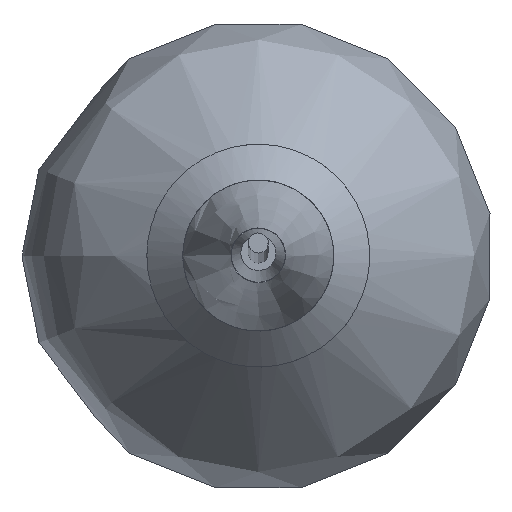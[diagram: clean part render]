
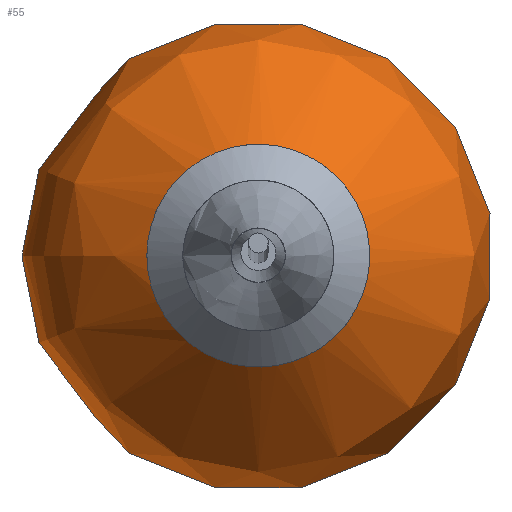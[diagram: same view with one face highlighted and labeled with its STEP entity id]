
A CAD part, top view. The second image highlights one B-rep face of the part: STEP entity #55.
In plain terms, the highlighted free-form (B-spline) face has degree [2, 2] with [9, 5] control points.
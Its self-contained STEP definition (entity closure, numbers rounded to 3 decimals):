
#55=ADVANCED_FACE('',(#69),#213,.T.);
#69=FACE_OUTER_BOUND('',#83,.T.);
#83=EDGE_LOOP('',(#97,#98,#99));
#97=ORIENTED_EDGE('',*,*,#141,.T.);
#98=ORIENTED_EDGE('',*,*,#142,.T.);
#99=ORIENTED_EDGE('',*,*,#142,.F.);
#141=EDGE_CURVE('',#190,#190,#170,.T.);
#142=EDGE_CURVE('',#190,#191,#171,.T.);
#170=(
BOUNDED_CURVE()
B_SPLINE_CURVE(2,(#381,#382,#383,#384,#385,#386,#387,#388,#389),
 .UNSPECIFIED.,.T.,.F.)
B_SPLINE_CURVE_WITH_KNOTS((3,2,2,2,3),(0.,54.977,109.954,
164.93,219.907),.UNSPECIFIED.)
CURVE()
GEOMETRIC_REPRESENTATION_ITEM()
RATIONAL_B_SPLINE_CURVE((1.,0.707,1.,0.707,1.,0.707,
1.,0.707,1.))
REPRESENTATION_ITEM('')
);
#171=(
BOUNDED_CURVE()
B_SPLINE_CURVE(2,(#390,#391,#392,#393,#394),.UNSPECIFIED.,.F.,.F.)
B_SPLINE_CURVE_WITH_KNOTS((3,2,3),(0.,46.387,92.774),
 .UNSPECIFIED.)
CURVE()
GEOMETRIC_REPRESENTATION_ITEM()
RATIONAL_B_SPLINE_CURVE((1.,0.788,1.,0.788,1.))
REPRESENTATION_ITEM('')
);
#190=VERTEX_POINT('',#379);
#191=VERTEX_POINT('',#380);
#213=(
BOUNDED_SURFACE()
B_SPLINE_SURFACE(2,2,((#334,#335,#336,#337,#338),(#339,#340,#341,#342,#343),
(#344,#345,#346,#347,#348),(#349,#350,#351,#352,#353),(#354,#355,#356,#357,
#358),(#359,#360,#361,#362,#363),(#364,#365,#366,#367,#368),(#369,#370,
#371,#372,#373),(#374,#375,#376,#377,#378)),.UNSPECIFIED.,.T.,.F.,.F.)
B_SPLINE_SURFACE_WITH_KNOTS((3,2,2,2,3),(3,2,3),(0.,54.977,109.954,
164.93,219.907),(0.,46.387,92.774),
 .UNSPECIFIED.)
GEOMETRIC_REPRESENTATION_ITEM()
RATIONAL_B_SPLINE_SURFACE(((1.,0.788,1.,0.788,1.),
(0.707,0.557,0.707,0.557,
0.707),(1.,0.788,1.,0.788,1.),(0.707,
0.557,0.707,0.557,0.707),
(1.,0.788,1.,0.788,1.),(0.707,0.557,
0.707,0.557,0.707),(1.,0.788,
1.,0.788,1.),(0.707,0.557,0.707,
0.557,0.707),(1.,0.788,1.,0.788,
1.)))
REPRESENTATION_ITEM('')
SURFACE()
);
#334=CARTESIAN_POINT('',(6376.497,1480.405,-2865.75));
#335=CARTESIAN_POINT('',(6352.409,1480.405,-2878.626));
#336=CARTESIAN_POINT('',(6359.046,1480.405,-2905.122));
#337=CARTESIAN_POINT('',(6365.683,1480.405,-2931.617));
#338=CARTESIAN_POINT('',(6392.997,1480.405,-2931.617));
#339=CARTESIAN_POINT('',(6376.497,1463.905,-2865.75));
#340=CARTESIAN_POINT('',(6352.409,1439.817,-2878.626));
#341=CARTESIAN_POINT('',(6359.046,1446.454,-2905.122));
#342=CARTESIAN_POINT('',(6365.683,1453.091,-2931.617));
#343=CARTESIAN_POINT('',(6392.997,1480.405,-2931.617));
#344=CARTESIAN_POINT('',(6392.997,1463.905,-2865.75));
#345=CARTESIAN_POINT('',(6392.997,1439.817,-2878.626));
#346=CARTESIAN_POINT('',(6392.997,1446.454,-2905.122));
#347=CARTESIAN_POINT('',(6392.997,1453.091,-2931.617));
#348=CARTESIAN_POINT('',(6392.997,1480.405,-2931.617));
#349=CARTESIAN_POINT('',(6409.497,1463.905,-2865.75));
#350=CARTESIAN_POINT('',(6433.585,1439.817,-2878.626));
#351=CARTESIAN_POINT('',(6426.948,1446.454,-2905.122));
#352=CARTESIAN_POINT('',(6420.311,1453.091,-2931.617));
#353=CARTESIAN_POINT('',(6392.997,1480.405,-2931.617));
#354=CARTESIAN_POINT('',(6409.497,1480.405,-2865.75));
#355=CARTESIAN_POINT('',(6433.585,1480.405,-2878.626));
#356=CARTESIAN_POINT('',(6426.948,1480.405,-2905.122));
#357=CARTESIAN_POINT('',(6420.311,1480.405,-2931.617));
#358=CARTESIAN_POINT('',(6392.997,1480.405,-2931.617));
#359=CARTESIAN_POINT('',(6409.497,1496.905,-2865.75));
#360=CARTESIAN_POINT('',(6433.585,1520.993,-2878.626));
#361=CARTESIAN_POINT('',(6426.948,1514.356,-2905.122));
#362=CARTESIAN_POINT('',(6420.311,1507.719,-2931.617));
#363=CARTESIAN_POINT('',(6392.997,1480.405,-2931.617));
#364=CARTESIAN_POINT('',(6392.997,1496.905,-2865.75));
#365=CARTESIAN_POINT('',(6392.997,1520.993,-2878.626));
#366=CARTESIAN_POINT('',(6392.997,1514.356,-2905.122));
#367=CARTESIAN_POINT('',(6392.997,1507.719,-2931.617));
#368=CARTESIAN_POINT('',(6392.997,1480.405,-2931.617));
#369=CARTESIAN_POINT('',(6376.497,1496.905,-2865.75));
#370=CARTESIAN_POINT('',(6352.409,1520.993,-2878.626));
#371=CARTESIAN_POINT('',(6359.046,1514.356,-2905.122));
#372=CARTESIAN_POINT('',(6365.683,1507.719,-2931.617));
#373=CARTESIAN_POINT('',(6392.997,1480.405,-2931.617));
#374=CARTESIAN_POINT('',(6376.497,1480.405,-2865.75));
#375=CARTESIAN_POINT('',(6352.409,1480.405,-2878.626));
#376=CARTESIAN_POINT('',(6359.046,1480.405,-2905.122));
#377=CARTESIAN_POINT('',(6365.683,1480.405,-2931.617));
#378=CARTESIAN_POINT('',(6392.997,1480.405,-2931.617));
#379=CARTESIAN_POINT('',(6376.497,1480.405,-2865.75));
#380=CARTESIAN_POINT('',(6392.997,1480.405,-2931.617));
#381=CARTESIAN_POINT('',(6376.497,1480.405,-2865.75));
#382=CARTESIAN_POINT('',(6376.497,1463.905,-2865.75));
#383=CARTESIAN_POINT('',(6392.997,1463.905,-2865.75));
#384=CARTESIAN_POINT('',(6409.497,1463.905,-2865.75));
#385=CARTESIAN_POINT('',(6409.497,1480.405,-2865.75));
#386=CARTESIAN_POINT('',(6409.497,1496.905,-2865.75));
#387=CARTESIAN_POINT('',(6392.997,1496.905,-2865.75));
#388=CARTESIAN_POINT('',(6376.497,1496.905,-2865.75));
#389=CARTESIAN_POINT('',(6376.497,1480.405,-2865.75));
#390=CARTESIAN_POINT('',(6376.497,1480.405,-2865.75));
#391=CARTESIAN_POINT('',(6352.409,1480.405,-2878.626));
#392=CARTESIAN_POINT('',(6359.046,1480.405,-2905.122));
#393=CARTESIAN_POINT('',(6365.683,1480.405,-2931.617));
#394=CARTESIAN_POINT('',(6392.997,1480.405,-2931.617));
